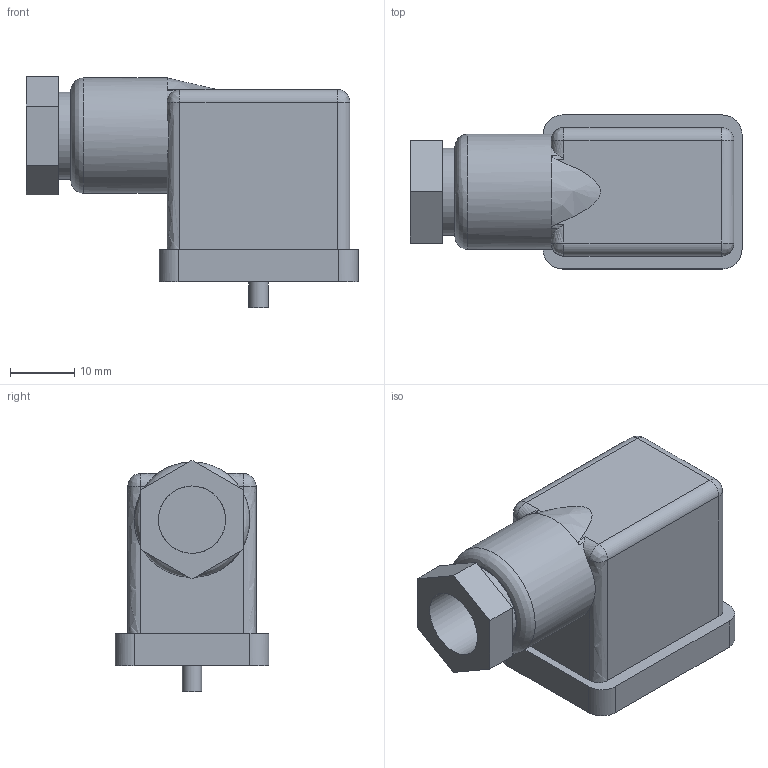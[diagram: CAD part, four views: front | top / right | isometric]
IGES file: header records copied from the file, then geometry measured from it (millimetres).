
Global section: file name: 305_11_00; native system: Autodesk Inventor 2014; preprocessor: unknown; organization: Pneumax S.p.A.; date: 20161004.162741; units: millimetre
Bounding box: 51.75 x 24 x 36.04 mm (x, y, z)
Volume: 22151.9 mm3; surface area: 5966.2 mm2
Topology: 1 solids, 1 shells, 49 faces, 118 edges, 72 vertices
Faces by surface type: bspline 49
